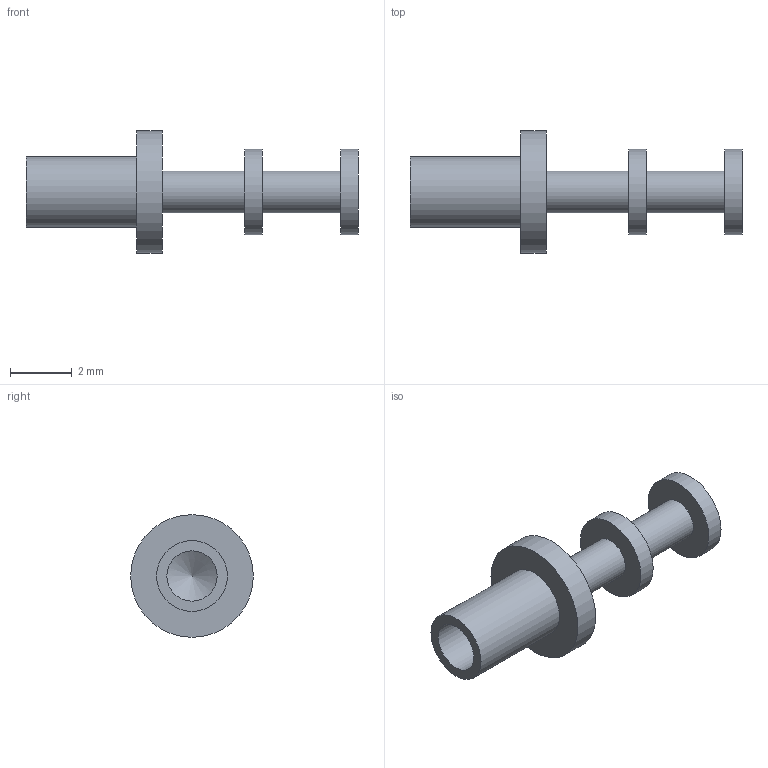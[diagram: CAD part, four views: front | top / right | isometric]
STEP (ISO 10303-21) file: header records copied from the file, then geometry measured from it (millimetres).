
FILE_DESCRIPTION(/* description */ (''),/* implementation_level */ '2;1');
FILE_NAME(/* name */ 'Z:\STEP folder\160-2034-03.ipt.stp',/* time_stamp */ '2016-12-07T10:49:57+00:00',/* author */ ('Paul Karlsons'),/* organization */ (''),/* preprocessor_version */ 'ST-DEVELOPER v15.2',/* originating_system */ 'Autodesk Inventor 2014',/* authorisation */ '');
FILE_SCHEMA (('AUTOMOTIVE_DESIGN { 1 0 10303 214 3 1 1 }'));
Length unit declared in the file: millimetre
Products named in the file (1): 160-2034-03
Bounding box: 10.72 x 3.96 x 3.96 mm (x, y, z)
Volume: 33.6 mm3; surface area: 123 mm2
Topology: 1 solids, 1 shells, 15 faces, 23 edges, 15 vertices
Faces by surface type: cylinder 7, plane 7, cone 1
Full cylindrical faces by diameter (mm): 1.346 x2, 1.626 x1, 2.286 x1, 2.768 x1, 2.769 x1, 3.962 x1
Entity records: 315 total; most frequent: DIRECTION 60, CARTESIAN_POINT 44, AXIS2_PLACEMENT_3D 30, EDGE_LOOP 28, ORIENTED_EDGE 28, FACE_BOUND 16, ADVANCED_FACE 15, CIRCLE 14
